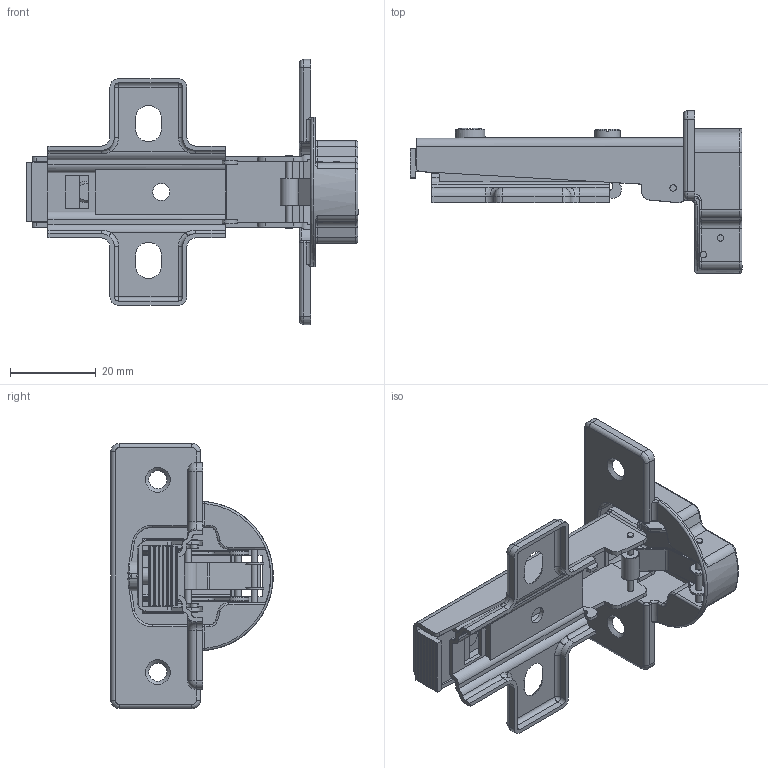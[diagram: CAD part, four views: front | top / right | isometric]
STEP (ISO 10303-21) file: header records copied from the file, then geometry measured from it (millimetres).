
FILE_DESCRIPTION(/* description */ (''),/* implementation_level */ '2;1');
FILE_NAME(/* name */ 'W:\R&D\pub\Katalog techniczny\bryły 3D\ZP-CONL09-BE.stp',/* time_stamp */ '2016-09-14T10:15:00+02:00',/* author */ ('tomaszw'),/* organization */ (''),/* preprocessor_version */ 'ST-DEVELOPER v16.1',/* originating_system */ 'Autodesk Inventor 2016',/* authorisation */ '');
FILE_SCHEMA (('AUTOMOTIVE_DESIGN { 1 0 10303 214 3 1 1 }'));
Length unit declared in the file: millimetre
Products named in the file (11): ZP-CONL0-P; ZP-CONL0_2; ZP-CONL09; ZP-CONL0_1; ZP-CONL0_4; ZP-CONL0_3; ZP-CONL0_Pin2; ZP-CONL0_Pin1; Wkret4x6; ZP-CONL0_5; ZP-CONL07(8)(9)-ZE(BE)
Assembly tree (12 placements, depth 2):
  ZP-CONL07(8)(9)-ZE(BE)
    ZP-CONL0-P
    ZP-CONL0_2
    ZP-CONL09
    ZP-CONL0_1
    ZP-CONL0_4
    ZP-CONL0_3
    ZP-CONL0_Pin2  x2
    ZP-CONL0_Pin1  x2
    Wkret4x6
    ZP-CONL0_5
Bounding box: 77.64 x 38 x 62 mm (x, y, z)
Volume: 8133.1 mm3; surface area: 19240.3 mm2
Topology: 12 solids, 12 shells, 772 faces, 2005 edges, 1267 vertices
Faces by surface type: plane 354, cylinder 232, bspline 89, torus 72, cone 13, sphere 12
Full cylindrical faces by diameter (mm): 1.5 x19, 4 x2, 5 x1, 6 x1, 7 x1
Entity records: 24919 total; most frequent: CARTESIAN_POINT 6034, ORIENTED_EDGE 3930, DIRECTION 3779, EDGE_CURVE 1965, AXIS2_PLACEMENT_3D 1306, VERTEX_POINT 1258, LINE 1167, VECTOR 1167
